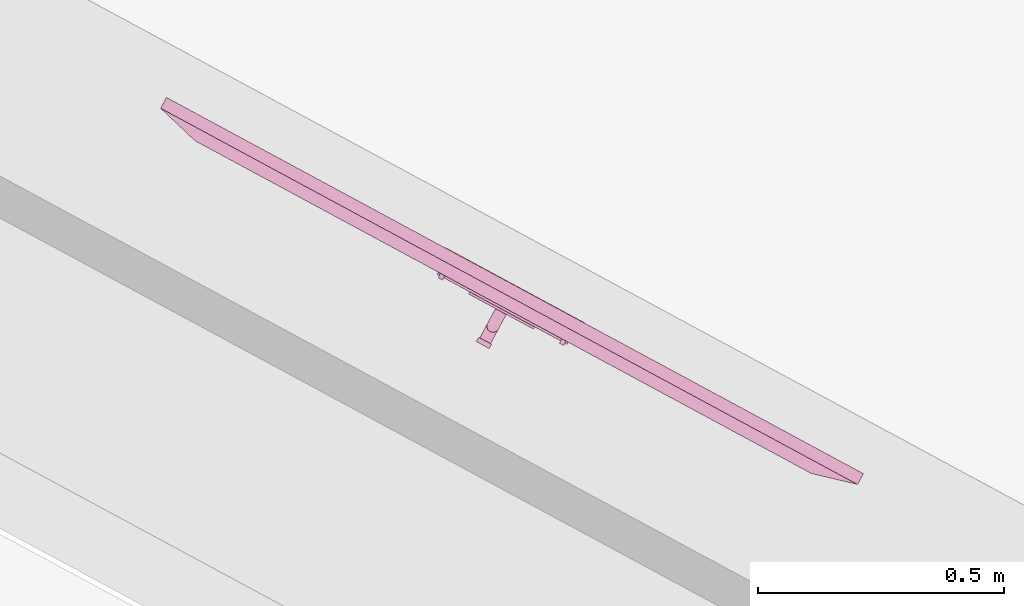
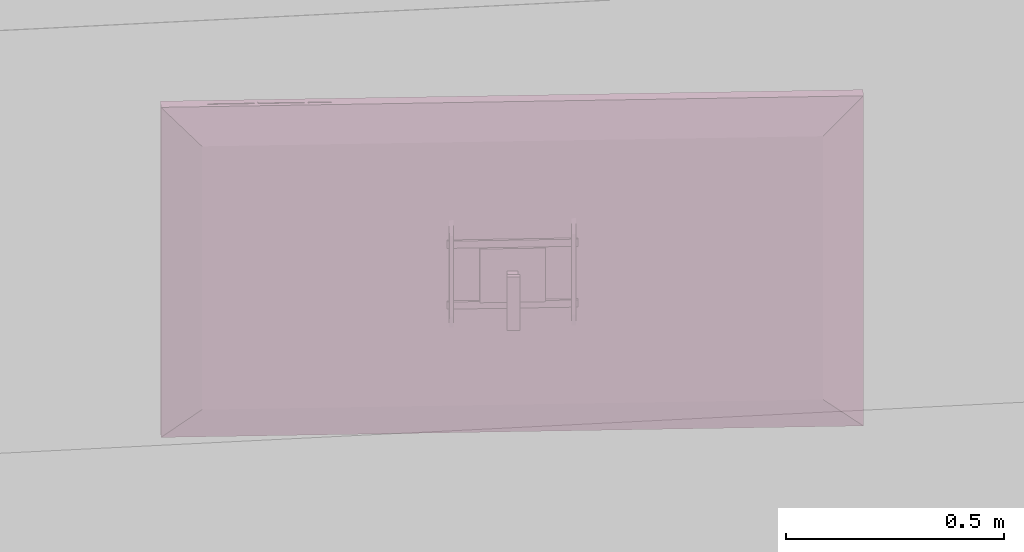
# One storey, part 18 of 36: 1 furnishing.
"""IFC2X3 building model written with IfcOpenShell, lengths in metres."""

from ifc_helpers import new_model, entity, si_unit, converted_unit, derived_unit, money_unit, direction, frame, origin_with_axes, place, context, subcontext, project, spatial, faceted_brep, source, transform, mapped, type_object, element, save


model = new_model("IFC2X3")

# Units and contexts
model_context = context("Model", 3, precision=1e-05, world=origin_with_axes(), true_north=direction((0.0, 1.0)))
body_context = subcontext(model_context, "Body", "Model", "MODEL_VIEW")
ifc_project = project(units=[si_unit("LENGTHUNIT", "METRE"), si_unit("AREAUNIT", "SQUARE_METRE"), si_unit("VOLUMEUNIT", "CUBIC_METRE"), converted_unit("PLANEANGLEUNIT", "DEGREE", entity("IfcPlaneAngleMeasure", 0.0174532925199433), si_unit("PLANEANGLEUNIT", "RADIAN"), dimensions=[0, 0, 0, 0, 0, 0, 0]), money_unit("EUR"), converted_unit("TIMEUNIT", "Year", entity("IfcTimeMeasure", 31556926.0), si_unit("TIMEUNIT", "SECOND"), dimensions=[0, 0, 1, 0, 0, 0, 0]), si_unit("MASSUNIT", "GRAM", prefix="KILO"), si_unit("THERMODYNAMICTEMPERATUREUNIT", "DEGREE_CELSIUS"), si_unit("LUMINOUSINTENSITYUNIT", "LUMEN"), si_unit("ENERGYUNIT", "JOULE", prefix="MEGA"), derived_unit("THERMALCONDUCTANCEUNIT", [(si_unit("POWERUNIT", "WATT"), 1), (si_unit("LENGTHUNIT", "METRE"), -1), (si_unit("THERMODYNAMICTEMPERATUREUNIT", "KELVIN"), -1)]), derived_unit("SPECIFICHEATCAPACITYUNIT", [(si_unit("ENERGYUNIT", "JOULE"), 1), (si_unit("MASSUNIT", "GRAM", prefix="KILO"), -1), (si_unit("THERMODYNAMICTEMPERATUREUNIT", "KELVIN"), -1)]), derived_unit("MASSDENSITYUNIT", [(si_unit("MASSUNIT", "GRAM", prefix="KILO"), 1), (si_unit("VOLUMEUNIT", "CUBIC_METRE"), -1)])], contexts=[model_context])

# Site, building, storey
site_placement = place(None, frame((-3.949935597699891, 1.740105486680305, 0.0), z_axis=(0.0, 0.0, 1.0), x_axis=(0.8799804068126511, -0.475009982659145, 0.0)))
site = spatial("IfcSite", under=ifc_project, at=site_placement, Name="Gelände", CompositionType="ELEMENT")
building_placement = place(site_placement, origin_with_axes())
building = spatial("IfcBuilding", under=site, at=building_placement, Name="Gebäude", CompositionType="ELEMENT")
storey_placement = place(building_placement, origin_with_axes())
storey = spatial("IfcBuildingStorey", under=building, at=storey_placement, Name="Erdgeschoss", CompositionType="ELEMENT", Elevation=0.0)

# Furnishing
furniture_type = type_object("IfcFurnitureType", Name="Flachbildfernseher 22", AssemblyPlace="NOTDEFINED")
shared_shape = source(origin_with_axes(), body_context, "Body", "Brep", [
    faceted_brep([(-0.7294179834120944, 0.06000000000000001, 0.5362351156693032), (-0.8794179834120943, 0.06000000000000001, 0.5362351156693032), (-0.8794179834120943, 0.05000000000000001, 0.5362351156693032), (-0.7294179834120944, 0.05000000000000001, 0.5362351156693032), (-0.7294179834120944, 0.06, 0.3862351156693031), (-0.8794179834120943, 0.06, 0.3862351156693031), (-0.8794179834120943, 0.05, 0.3862351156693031), (-0.7294179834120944, 0.05, 0.3862351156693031)], [[[0, 1, 2, 3]], [[0, 4, 5, 1]], [[1, 5, 6, 2]], [[3, 2, 6, 7]], [[4, 0, 3, 7]], [[5, 4, 7, 6]]]),
    faceted_brep([(-0.6544179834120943, 0.055, 0.3662351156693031), (-0.6544179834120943, 0.055, 0.3862351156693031), (-0.6544179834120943, 0.05, 0.3862351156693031), (-0.6544179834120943, 0.05, 0.3662351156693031), (-0.9544179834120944, 0.055, 0.3662351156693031), (-0.9544179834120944, 0.055, 0.3862351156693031), (-0.9544179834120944, 0.05, 0.3862351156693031), (-0.9544179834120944, 0.05, 0.3662351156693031)], [[[0, 1, 2, 3]], [[0, 4, 5, 1]], [[1, 5, 6, 2]], [[3, 2, 6, 7]], [[4, 0, 3, 7]], [[5, 4, 7, 6]]]),
    faceted_brep([(-0.6544179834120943, 0.05500000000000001, 0.5562351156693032), (-0.6544179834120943, 0.05000000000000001, 0.5562351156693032), (-0.6544179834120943, 0.05000000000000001, 0.5362351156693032), (-0.6544179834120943, 0.05500000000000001, 0.5362351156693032), (-0.9544179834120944, 0.05500000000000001, 0.5562351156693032), (-0.9544179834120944, 0.05000000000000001, 0.5562351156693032), (-0.9544179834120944, 0.05000000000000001, 0.5362351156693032), (-0.9544179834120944, 0.05500000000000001, 0.5362351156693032)], [[[0, 1, 2, 3]], [[4, 5, 1, 0]], [[1, 5, 6, 2]], [[3, 2, 6, 7]], [[0, 3, 7, 4]], [[7, 6, 5, 4]]]),
    faceted_brep([(-0.6694179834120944, 0.05999999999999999, 0.3487351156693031), (-0.6694179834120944, 0.06, 0.5737351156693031), (-0.6594179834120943, 0.06, 0.5737351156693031), (-0.6594179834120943, 0.05999999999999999, 0.3487351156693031), (-0.6694179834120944, 0.04999999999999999, 0.3112351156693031), (-0.6694179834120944, 0.05, 0.6112351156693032), (-0.6594179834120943, 0.05, 0.6112351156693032), (-0.6594179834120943, 0.04999999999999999, 0.3112351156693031)], [[[0, 1, 2, 3]], [[0, 4, 5, 1]], [[1, 5, 6, 2]], [[3, 2, 6, 7]], [[4, 0, 3, 7]], [[5, 4, 7, 6]]]),
    faceted_brep([(-0.9394179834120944, 0.06, 0.3487351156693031), (-0.9494179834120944, 0.06, 0.3487351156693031), (-0.9494179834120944, 0.06000000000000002, 0.5737351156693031), (-0.9394179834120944, 0.06000000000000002, 0.5737351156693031), (-0.9394179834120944, 0.05, 0.3112351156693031), (-0.9494179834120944, 0.05, 0.3112351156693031), (-0.9494179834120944, 0.05000000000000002, 0.6112351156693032), (-0.9394179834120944, 0.05000000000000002, 0.6112351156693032)], [[[0, 1, 2, 3]], [[4, 5, 1, 0]], [[1, 5, 6, 2]], [[3, 2, 6, 7]], [[0, 3, 7, 4]], [[7, 6, 5, 4]]]),
    faceted_brep([(-0.8169179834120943, 0.09375000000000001, 0.4737351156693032), (-0.8161641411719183, 0.09802525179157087, 0.4737351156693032), (-0.8161641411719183, 0.09802525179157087, 0.4237351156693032), (-0.8169179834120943, 0.09375000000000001, 0.4237351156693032), (-0.8161641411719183, 0.08947474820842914, 0.4737351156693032), (-0.8139935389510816, 0.08571515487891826, 0.4737351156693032), (-0.8106679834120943, 0.08292468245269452, 0.4737351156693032), (-0.806588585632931, 0.0814399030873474, 0.4737351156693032), (-0.8022473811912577, 0.08143990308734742, 0.4737351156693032), (-0.7981679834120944, 0.08292468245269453, 0.4737351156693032), (-0.7948424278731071, 0.08571515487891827, 0.4737351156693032), (-0.7926718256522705, 0.08947474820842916, 0.4737351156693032), (-0.7919179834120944, 0.09375000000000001, 0.4737351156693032), (-0.7926718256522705, 0.09802525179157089, 0.4737351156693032), (-0.7948424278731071, 0.1017848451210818, 0.4737351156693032), (-0.7981679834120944, 0.1045753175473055, 0.4737351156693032), (-0.8022473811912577, 0.1060600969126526, 0.4737351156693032), (-0.806588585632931, 0.1060600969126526, 0.4737351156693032), (-0.8106679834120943, 0.1045753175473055, 0.4737351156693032), (-0.8139935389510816, 0.1017848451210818, 0.4737351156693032), (-0.8139935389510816, 0.1017848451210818, 0.4237351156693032), (-0.8106679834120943, 0.1045753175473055, 0.4237351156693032), (-0.806588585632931, 0.1060600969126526, 0.4237351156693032), (-0.8022473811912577, 0.1060600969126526, 0.4237351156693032), (-0.7981679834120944, 0.1045753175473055, 0.4237351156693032), (-0.7948424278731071, 0.1017848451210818, 0.4237351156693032), (-0.7926718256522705, 0.09802525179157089, 0.4237351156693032), (-0.7919179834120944, 0.09375000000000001, 0.4237351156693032), (-0.7926718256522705, 0.08947474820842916, 0.4237351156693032), (-0.7948424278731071, 0.08571515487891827, 0.4237351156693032), (-0.7981679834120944, 0.08292468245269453, 0.4237351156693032), (-0.8022473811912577, 0.08143990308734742, 0.4237351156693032), (-0.806588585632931, 0.0814399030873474, 0.4237351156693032), (-0.8106679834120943, 0.08292468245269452, 0.4237351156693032), (-0.8139935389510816, 0.08571515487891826, 0.4237351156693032), (-0.8161641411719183, 0.08947474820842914, 0.4237351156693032)], [[[0, 1, 2, 3]], [[0, 4, 5, 6, 7, 8, 9, 10, 11, 12, 13, 14, 15, 16, 17, 18, 19, 1]], [[1, 19, 20, 2]], [[3, 2, 20, 21, 22, 23, 24, 25, 26, 27, 28, 29, 30, 31, 32, 33, 34, 35]], [[4, 0, 3, 35]], [[5, 4, 35, 34]], [[6, 5, 34, 33]], [[7, 6, 33, 32]], [[8, 7, 32, 31]], [[9, 8, 31, 30]], [[10, 9, 30, 29]], [[11, 10, 29, 28]], [[12, 11, 28, 27]], [[13, 12, 27, 26]], [[14, 13, 26, 25]], [[15, 14, 25, 24]], [[16, 15, 24, 23]], [[17, 16, 23, 22]], [[18, 17, 22, 21]], [[19, 18, 21, 20]]]),
    faceted_brep([(-0.8169179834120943, 0.09375000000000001, 0.4487351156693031), (-0.8169179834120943, 0.06, 0.4487351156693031), (-0.8169179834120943, 0.06, 0.4737351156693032), (-0.8169179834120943, 0.09375000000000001, 0.4737351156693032), (-0.8161641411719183, 0.08947474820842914, 0.4487351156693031), (-0.8139935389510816, 0.08571515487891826, 0.4487351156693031), (-0.8106679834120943, 0.08292468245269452, 0.4487351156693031), (-0.806588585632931, 0.0814399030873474, 0.4487351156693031), (-0.8022473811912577, 0.08143990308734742, 0.4487351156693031), (-0.7981679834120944, 0.08292468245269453, 0.4487351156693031), (-0.7948424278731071, 0.08571515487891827, 0.4487351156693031), (-0.7926718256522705, 0.08947474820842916, 0.4487351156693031), (-0.7919179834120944, 0.09375000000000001, 0.4487351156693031), (-0.7919179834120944, 0.06, 0.4487351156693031), (-0.7919179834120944, 0.06, 0.4737351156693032), (-0.7926718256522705, 0.08947474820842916, 0.4737351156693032), (-0.7948424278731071, 0.08571515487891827, 0.4737351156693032), (-0.7981679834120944, 0.08292468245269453, 0.4737351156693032), (-0.8022473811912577, 0.08143990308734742, 0.4737351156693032), (-0.806588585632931, 0.0814399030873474, 0.4737351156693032), (-0.8106679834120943, 0.08292468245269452, 0.4737351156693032), (-0.8139935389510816, 0.08571515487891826, 0.4737351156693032), (-0.8161641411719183, 0.08947474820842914, 0.4737351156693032), (-0.7919179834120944, 0.09375000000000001, 0.4737351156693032)], [[[0, 1, 2, 3]], [[4, 5, 6, 7, 8, 9, 10, 11, 12, 13, 1, 0]], [[1, 13, 14, 2]], [[15, 16, 17, 18, 19, 20, 21, 22, 3, 2, 14, 23]], [[22, 4, 0, 3]], [[21, 5, 4, 22]], [[20, 6, 5, 21]], [[19, 7, 6, 20]], [[18, 8, 7, 19]], [[17, 9, 8, 18]], [[16, 10, 9, 17]], [[15, 11, 10, 16]], [[23, 12, 11, 15]], [[23, 14, 13, 12]]]),
    faceted_brep([(-0.8139935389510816, 0.1017848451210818, 0.4487351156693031), (-0.8106679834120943, 0.1045753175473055, 0.4487351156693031), (-0.806588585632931, 0.1060600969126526, 0.4487351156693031), (-0.8022473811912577, 0.1060600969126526, 0.4487351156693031), (-0.7981679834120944, 0.1045753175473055, 0.4487351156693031), (-0.7948424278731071, 0.1017848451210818, 0.4487351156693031), (-0.7926718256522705, 0.09802525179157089, 0.4487351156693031), (-0.7919179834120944, 0.09375000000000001, 0.4487351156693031), (-0.7919179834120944, 0.1275, 0.4487351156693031), (-0.8169179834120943, 0.1275, 0.4487351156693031), (-0.8169179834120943, 0.09375000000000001, 0.4487351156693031), (-0.8161641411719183, 0.09802525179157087, 0.4487351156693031), (-0.8139935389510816, 0.1017848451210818, 0.4237351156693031), (-0.8106679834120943, 0.1045753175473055, 0.4237351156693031), (-0.806588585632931, 0.1060600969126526, 0.4237351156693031), (-0.8022473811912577, 0.1060600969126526, 0.4237351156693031), (-0.7981679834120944, 0.1045753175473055, 0.4237351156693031), (-0.7948424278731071, 0.1017848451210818, 0.4237351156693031), (-0.7926718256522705, 0.09802525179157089, 0.4237351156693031), (-0.7919179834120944, 0.09375000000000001, 0.4237351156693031), (-0.7919179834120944, 0.1275, 0.4237351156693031), (-0.8169179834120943, 0.1275, 0.4237351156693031), (-0.8169179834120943, 0.09375000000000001, 0.4237351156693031), (-0.8161641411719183, 0.09802525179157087, 0.4237351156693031)], [[[0, 1, 2, 3, 4, 5, 6, 7, 8, 9, 10, 11]], [[0, 12, 13, 1]], [[1, 13, 14, 2]], [[2, 14, 15, 3]], [[3, 15, 16, 4]], [[4, 16, 17, 5]], [[5, 17, 18, 6]], [[6, 18, 19, 7]], [[19, 20, 8, 7]], [[8, 20, 21, 9]], [[10, 9, 21, 22]], [[10, 22, 23, 11]], [[11, 23, 12, 0]], [[18, 17, 16, 15, 14, 13, 12, 23, 22, 21, 20, 19]]]),
    faceted_brep([(-0.7894179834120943, 0.1275, 0.3612351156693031), (-0.8194179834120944, 0.1275, 0.3612351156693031), (-0.8194179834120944, 0.1375, 0.3612351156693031), (-0.7894179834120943, 0.1375, 0.3612351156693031), (-0.7894179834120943, 0.1275, 0.5112351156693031), (-0.8194179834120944, 0.1275, 0.5112351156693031), (-0.8194179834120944, 0.1375, 0.5112351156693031), (-0.7894179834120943, 0.1375, 0.5112351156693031)], [[[0, 1, 2, 3]], [[0, 4, 5, 1]], [[1, 5, 6, 2]], [[3, 2, 6, 7]], [[4, 0, 3, 7]], [[5, 4, 7, 6]]]),
    faceted_brep([(-1.588835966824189, 0.0, 0.02), (-1.588835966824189, 0.0, 0.9024702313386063), (-1.588835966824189, 0.0009999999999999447, 0.9024702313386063), (-1.588835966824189, 0.0009999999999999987, 0.02), (-0.02, 0.0, 0.02), (-0.02, 0.0, 0.9024702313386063), (-0.02, 0.0009999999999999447, 0.9024702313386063), (-0.02, 0.0009999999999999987, 0.02)], [[[0, 1, 2, 3]], [[0, 4, 5, 1]], [[1, 5, 6, 2]], [[3, 2, 6, 7]], [[4, 0, 3, 7]], [[5, 4, 7, 6]]]),
    faceted_brep([(-1.608835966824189, 0.0, 0.9224702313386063), (-1.608835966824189, 0.0, 0.0), (0.0, 0.0, 0.0), (0.0, 0.0, 0.9224702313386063), (-0.02000000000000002, 0.0, 0.02000000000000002), (-1.588835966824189, 0.0, 0.02000000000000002), (-1.588835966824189, 0.0, 0.9024702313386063), (-0.02000000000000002, 0.0, 0.9024702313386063), (-1.608835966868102, 0.025, -3.895163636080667e-10), (-1.608835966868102, 0.02499999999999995, 0.9224702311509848), (3.895163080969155e-10, 0.025, -3.895163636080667e-10), (3.895163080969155e-10, 0.02499999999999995, 0.9224702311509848), (-0.02000000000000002, 0.0009999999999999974, 0.02000000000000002), (-1.588835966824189, 0.0009999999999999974, 0.02000000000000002), (-1.588835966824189, 0.0009999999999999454, 0.9024702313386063), (-0.02000000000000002, 0.0009999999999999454, 0.9024702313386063), (-1.515534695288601, 0.05000000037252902, 0.09330127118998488), (-1.515534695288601, 0.05000000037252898, 0.8291689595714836), (-0.09330127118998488, 0.05000000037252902, 0.09330127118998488), (-0.09330127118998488, 0.05000000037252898, 0.8291689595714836)], [[[0, 1, 2, 3], [4, 5, 6, 7]], [[8, 1, 0, 9]], [[10, 2, 1, 8]], [[11, 3, 2, 10]], [[9, 0, 3, 11]], [[4, 12, 13, 5]], [[5, 13, 14, 6]], [[6, 14, 15, 7]], [[7, 15, 12, 4]], [[16, 8, 9, 17]], [[18, 10, 8, 16]], [[19, 11, 10, 18]], [[17, 9, 11, 19]], [[14, 13, 12, 15]], [[17, 19, 18, 16]]]),
    faceted_brep([(-0.8044179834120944, -0.0008000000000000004, 0.005), (-0.8205063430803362, -0.0008000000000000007, 0.01), (-0.8205063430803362, 0.0, 0.01), (-0.8044179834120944, 0.0, 0.005), (-0.7883296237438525, -0.0008000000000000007, 0.01), (-0.6435343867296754, -0.000800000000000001, 0.015), (-0.9653015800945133, -0.000800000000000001, 0.015), (-0.9653015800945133, 0.0, 0.015), (-0.6435343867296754, 0.0, 0.015), (-0.7883296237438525, 0.0, 0.01)], [[[0, 1, 2, 3]], [[0, 4, 5, 6, 1]], [[1, 6, 7, 2]], [[3, 2, 7, 8, 9]], [[4, 0, 3, 9]], [[5, 4, 9, 8]], [[6, 5, 8, 7]]]),
    faceted_brep([(-0.2145114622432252, 0.009999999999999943, 0.9224702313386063), (-0.1072557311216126, 0.009999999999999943, 0.9224702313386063), (-0.1072557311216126, 0.009999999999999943, 0.9240702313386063), (-0.2145114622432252, 0.009999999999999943, 0.9240702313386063), (-0.2145114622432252, 0.01624999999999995, 0.9224702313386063), (-0.1072557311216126, 0.01624999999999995, 0.9224702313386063), (-0.1072557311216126, 0.01624999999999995, 0.9240702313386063), (-0.2145114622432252, 0.01624999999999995, 0.9240702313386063)], [[[0, 1, 2, 3]], [[1, 0, 4, 5]], [[2, 1, 5, 6]], [[3, 2, 6, 7]], [[0, 3, 7, 4]], [[5, 4, 7, 6]]]),
    faceted_brep([(-0.3294283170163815, 0.009999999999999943, 0.9224702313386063), (-0.2221725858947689, 0.009999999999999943, 0.9224702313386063), (-0.2221725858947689, 0.009999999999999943, 0.9240702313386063), (-0.3294283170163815, 0.009999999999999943, 0.9240702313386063), (-0.3294283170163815, 0.01624999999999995, 0.9224702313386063), (-0.2221725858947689, 0.01624999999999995, 0.9224702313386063), (-0.2221725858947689, 0.01624999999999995, 0.9240702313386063), (-0.3294283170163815, 0.01624999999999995, 0.9240702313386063)], [[[0, 1, 2, 3]], [[1, 0, 4, 5]], [[2, 1, 5, 6]], [[3, 2, 6, 7]], [[0, 3, 7, 4]], [[5, 4, 7, 6]]]),
    faceted_brep([(-0.3907173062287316, 0.009999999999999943, 0.9224702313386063), (-0.3370894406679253, 0.009999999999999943, 0.9224702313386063), (-0.3370894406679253, 0.009999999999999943, 0.9240702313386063), (-0.3907173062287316, 0.009999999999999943, 0.9240702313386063), (-0.3907173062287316, 0.01624999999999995, 0.9224702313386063), (-0.3370894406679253, 0.01624999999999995, 0.9224702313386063), (-0.3370894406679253, 0.01624999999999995, 0.9240702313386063), (-0.3907173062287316, 0.01624999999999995, 0.9240702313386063)], [[[0, 1, 2, 3]], [[1, 0, 4, 5]], [[2, 1, 5, 6]], [[3, 2, 6, 7]], [[0, 3, 7, 4]], [[5, 4, 7, 6]]]),
])
furnishing_placement = place(storey_placement, frame((9.515229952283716, 0.8412998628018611, 0.9672373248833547), z_axis=(0.0, 0.0, 1.0), x_axis=(-1.0, 0.0, 0.0)))
element("IfcFurnishingElement", 1, at=furnishing_placement, inside=storey, type_object=furniture_type, Name="Objekt-0064", ObjectType="FURNITURE", context=body_context, shape_type="MappedRepresentation", body=[
    mapped(shared_shape, transform((0.0, 0.0, 0.0))),
])

save(model, "model.ifc")
